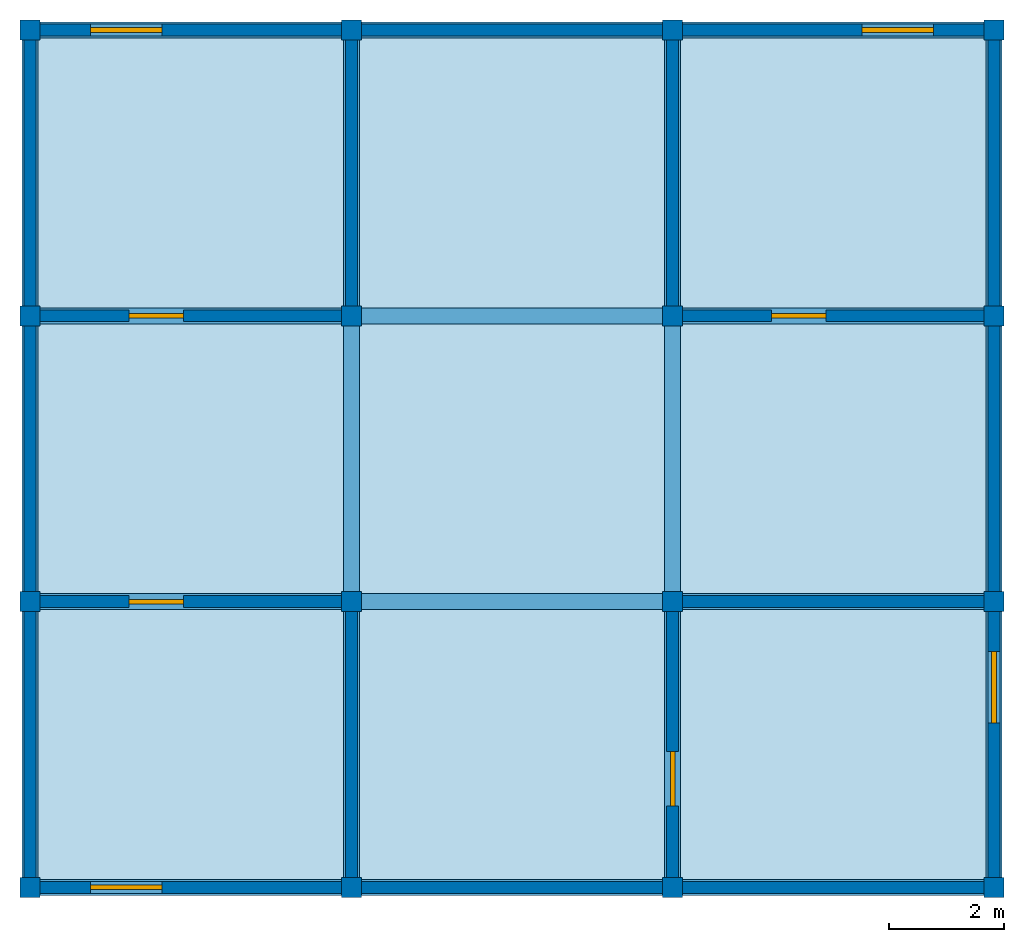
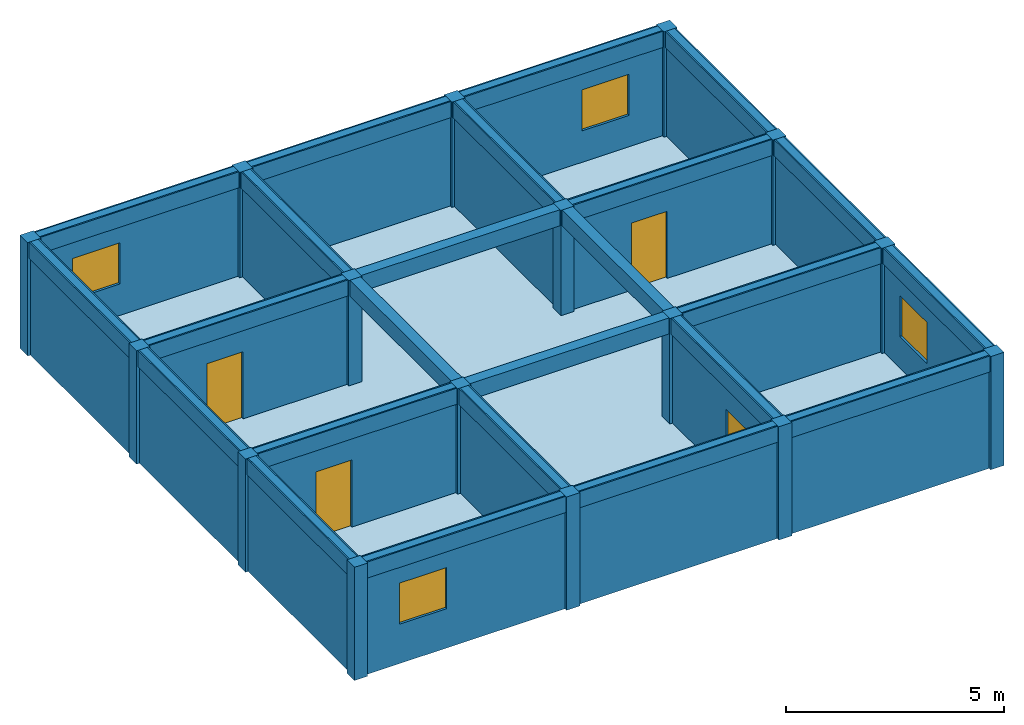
# One storey: 24 beams, 20 walls, 16 columns, 4 doors, 4 windows, 1 slab, 8 openings.
"""IFC4X3 building model written with IfcOpenShell, lengths in metres."""

from ifc_helpers import new_model, si_unit, frame, origin_with_axes, origin_2d, place, context, project, spatial, rectangle, extrude, material, element, fill, save


model = new_model("IFC4X3")

# Units and contexts
model_context = context("Model", 3, precision=1e-05, world=origin_with_axes())
ifc_project = project(units=[si_unit("LENGTHUNIT", "METRE"), si_unit("AREAUNIT", "SQUARE_METRE"), si_unit("VOLUMEUNIT", "CUBIC_METRE")], contexts=[model_context])

# Site, building, storey
site = spatial("IfcSite", under=ifc_project, Name="Puerto Montt Parcel", CompositionType="ELEMENT")
building = spatial("IfcBuilding", under=site, Name="Apex Hub", CompositionType="ELEMENT")
storey = spatial("IfcBuildingStorey", under=building, Name="Level 2", CompositionType="ELEMENT", Elevation=3.17)

# Columns
ifc_material_1 = material(Name="Timber")
column_1_placement = place(None, frame((-8.415, -7.485, 3.167), z_axis=(0.0, 0.0, 1.0), x_axis=(1.0, 0.0, 0.0)))
element("IfcColumn", 1, at=column_1_placement, inside=storey, material=ifc_material_1, Name="Column 2.1", ObjectType="Core Column", PredefinedType="COLUMN", context=model_context, shape_type="SweptSolid", body=[
    extrude(rectangle(XDim=0.35, YDim=0.35, at=origin_2d()), origin_with_axes(), (0.0, 0.0, 1.0), 3.167),
])
column_2_placement = place(None, frame((-8.415, -2.495, 3.167), z_axis=(0.0, 0.0, 1.0), x_axis=(1.0, 0.0, 0.0)))
element("IfcColumn", 2, at=column_2_placement, inside=storey, material=ifc_material_1, Name="Column 2.2", ObjectType="Structural Column", PredefinedType="COLUMN", context=model_context, shape_type="SweptSolid", body=[
    extrude(rectangle(XDim=0.35, YDim=0.35, at=origin_2d()), origin_with_axes(), (0.0, 0.0, 1.0), 3.167),
])
for number, where, z_axis, x_axis, name in (
    (3, (-8.415, 2.495, 3.167), (0.0, 0.0, 1.0), (1.0, 0.0, 0.0), "Column 2.3"),
    (4, (-8.415, 7.485, 3.167), (0.0, 0.0, 1.0), (1.0, 0.0, 0.0), "Column 2.4"),
):
    element("IfcColumn", number, at=place(None, frame(where, z_axis=z_axis, x_axis=x_axis)), inside=storey, material=ifc_material_1, Name=name, ObjectType="Core Column", PredefinedType="PILASTER", context=model_context, shape_type="SweptSolid", body=[
        extrude(rectangle(XDim=0.35, YDim=0.35, at=origin_2d()), origin_with_axes(), (0.0, 0.0, 1.0), 3.167),
    ])
column_3_placement = place(None, frame((-2.805, -7.485, 3.167), z_axis=(0.0, 0.0, 1.0), x_axis=(1.0, 0.0, 0.0)))
element("IfcColumn", 5, at=column_3_placement, inside=storey, material=ifc_material_1, Name="Column 2.5", ObjectType="Facade Column", PredefinedType="PILASTER", context=model_context, shape_type="SweptSolid", body=[
    extrude(rectangle(XDim=0.35, YDim=0.35, at=origin_2d()), origin_with_axes(), (0.0, 0.0, 1.0), 3.167),
])
column_4_placement = place(None, frame((-2.805, -2.495, 3.167), z_axis=(0.0, 0.0, 1.0), x_axis=(1.0, 0.0, 0.0)))
element("IfcColumn", 6, at=column_4_placement, inside=storey, material=ifc_material_1, Name="Column 2.6", ObjectType="Facade Column", PredefinedType="COLUMN", context=model_context, shape_type="SweptSolid", body=[
    extrude(rectangle(XDim=0.35, YDim=0.35, at=origin_2d()), origin_with_axes(), (0.0, 0.0, 1.0), 3.167),
])
column_5_placement = place(None, frame((-2.805, 2.495, 3.167), z_axis=(0.0, 0.0, 1.0), x_axis=(1.0, 0.0, 0.0)))
element("IfcColumn", 7, at=column_5_placement, inside=storey, material=ifc_material_1, Name="Column 2.7", ObjectType="Corner Column", PredefinedType="PILASTER", context=model_context, shape_type="SweptSolid", body=[
    extrude(rectangle(XDim=0.35, YDim=0.35, at=origin_2d()), origin_with_axes(), (0.0, 0.0, 1.0), 3.167),
])
column_6_placement = place(None, frame((-2.805, 7.485, 3.167), z_axis=(0.0, 0.0, 1.0), x_axis=(1.0, 0.0, 0.0)))
element("IfcColumn", 8, at=column_6_placement, inside=storey, material=ifc_material_1, Name="Column 2.8", ObjectType="Core Column", PredefinedType="USERDEFINED", context=model_context, shape_type="SweptSolid", body=[
    extrude(rectangle(XDim=0.35, YDim=0.35, at=origin_2d()), origin_with_axes(), (0.0, 0.0, 1.0), 3.167),
])
column_7_placement = place(None, frame((2.805, -7.485, 3.167), z_axis=(0.0, 0.0, 1.0), x_axis=(1.0, 0.0, 0.0)))
element("IfcColumn", 9, at=column_7_placement, inside=storey, material=ifc_material_1, Name="Column 2.9", ObjectType="Corner Column", PredefinedType="COLUMN", context=model_context, shape_type="SweptSolid", body=[
    extrude(rectangle(XDim=0.35, YDim=0.35, at=origin_2d()), origin_with_axes(), (0.0, 0.0, 1.0), 3.167),
])
column_8_placement = place(None, frame((2.805, -2.495, 3.167), z_axis=(0.0, 0.0, 1.0), x_axis=(1.0, 0.0, 0.0)))
element("IfcColumn", 10, at=column_8_placement, inside=storey, material=ifc_material_1, Name="Column 2.10", ObjectType="Corner Column", PredefinedType="USERDEFINED", context=model_context, shape_type="SweptSolid", body=[
    extrude(rectangle(XDim=0.35, YDim=0.35, at=origin_2d()), origin_with_axes(), (0.0, 0.0, 1.0), 3.167),
])
column_9_placement = place(None, frame((2.805, 2.495, 3.167), z_axis=(0.0, 0.0, 1.0), x_axis=(1.0, 0.0, 0.0)))
element("IfcColumn", 11, at=column_9_placement, inside=storey, material=ifc_material_1, Name="Column 2.11", ObjectType="Core Column", PredefinedType="PILASTER", context=model_context, shape_type="SweptSolid", body=[
    extrude(rectangle(XDim=0.35, YDim=0.35, at=origin_2d()), origin_with_axes(), (0.0, 0.0, 1.0), 3.167),
])
column_10_placement = place(None, frame((2.805, 7.485, 3.167), z_axis=(0.0, 0.0, 1.0), x_axis=(1.0, 0.0, 0.0)))
element("IfcColumn", 12, at=column_10_placement, inside=storey, material=ifc_material_1, Name="Column 2.12", ObjectType="Facade Column", PredefinedType="USERDEFINED", context=model_context, shape_type="SweptSolid", body=[
    extrude(rectangle(XDim=0.35, YDim=0.35, at=origin_2d()), origin_with_axes(), (0.0, 0.0, 1.0), 3.167),
])
column_11_placement = place(None, frame((8.415, -7.485, 3.167), z_axis=(0.0, 0.0, 1.0), x_axis=(1.0, 0.0, 0.0)))
element("IfcColumn", 13, at=column_11_placement, inside=storey, material=ifc_material_1, Name="Column 2.13", ObjectType="Core Column", PredefinedType="USERDEFINED", context=model_context, shape_type="SweptSolid", body=[
    extrude(rectangle(XDim=0.35, YDim=0.35, at=origin_2d()), origin_with_axes(), (0.0, 0.0, 1.0), 3.167),
])
column_12_placement = place(None, frame((8.415, -2.495, 3.167), z_axis=(0.0, 0.0, 1.0), x_axis=(1.0, 0.0, 0.0)))
element("IfcColumn", 14, at=column_12_placement, inside=storey, material=ifc_material_1, Name="Column 2.14", ObjectType="Facade Column", PredefinedType="USERDEFINED", context=model_context, shape_type="SweptSolid", body=[
    extrude(rectangle(XDim=0.35, YDim=0.35, at=origin_2d()), origin_with_axes(), (0.0, 0.0, 1.0), 3.167),
])
column_13_placement = place(None, frame((8.415, 2.495, 3.167), z_axis=(0.0, 0.0, 1.0), x_axis=(1.0, 0.0, 0.0)))
element("IfcColumn", 15, at=column_13_placement, inside=storey, material=ifc_material_1, Name="Column 2.15", ObjectType="Facade Column", PredefinedType="NOTDEFINED", context=model_context, shape_type="SweptSolid", body=[
    extrude(rectangle(XDim=0.35, YDim=0.35, at=origin_2d()), origin_with_axes(), (0.0, 0.0, 1.0), 3.167),
])
column_14_placement = place(None, frame((8.415, 7.485, 3.167), z_axis=(0.0, 0.0, 1.0), x_axis=(1.0, 0.0, 0.0)))
element("IfcColumn", 16, at=column_14_placement, inside=storey, material=ifc_material_1, Name="Column 2.16", ObjectType="Core Column", PredefinedType="PILASTER", context=model_context, shape_type="SweptSolid", body=[
    extrude(rectangle(XDim=0.35, YDim=0.35, at=origin_2d()), origin_with_axes(), (0.0, 0.0, 1.0), 3.167),
])

# Beams
beam_1_placement = place(None, frame((-5.61, -7.485, 5.884), z_axis=(0.0, 0.0, 1.0), x_axis=(1.0, 0.0, 0.0)))
element("IfcBeam", 17, at=beam_1_placement, inside=storey, material=ifc_material_1, Name="Beam 2.1", ObjectType="Secondary Beam", PredefinedType="BEAM", context=model_context, shape_type="SweptSolid", body=[
    extrude(rectangle(XDim=5.61, YDim=0.28, at=origin_2d()), origin_with_axes(), (0.0, 0.0, 1.0), 0.45),
])
beam_2_placement = place(None, frame((0.0, -7.485, 5.884), z_axis=(0.0, 0.0, 1.0), x_axis=(1.0, 0.0, 0.0)))
element("IfcBeam", 18, at=beam_2_placement, inside=storey, material=ifc_material_1, Name="Beam 2.2", ObjectType="Ridge Beam", PredefinedType="BEAM", context=model_context, shape_type="SweptSolid", body=[
    extrude(rectangle(XDim=5.61, YDim=0.28, at=origin_2d()), origin_with_axes(), (0.0, 0.0, 1.0), 0.45),
])
beam_3_placement = place(None, frame((5.61, -7.485, 5.884), z_axis=(0.0, 0.0, 1.0), x_axis=(1.0, 0.0, 0.0)))
element("IfcBeam", 19, at=beam_3_placement, inside=storey, material=ifc_material_1, Name="Beam 2.3", ObjectType="Primary Beam", PredefinedType="T_BEAM", context=model_context, shape_type="SweptSolid", body=[
    extrude(rectangle(XDim=5.61, YDim=0.28, at=origin_2d()), origin_with_axes(), (0.0, 0.0, 1.0), 0.45),
])
beam_4_placement = place(None, frame((-5.61, -2.495, 5.884), z_axis=(0.0, 0.0, 1.0), x_axis=(1.0, 0.0, 0.0)))
element("IfcBeam", 20, at=beam_4_placement, inside=storey, material=ifc_material_1, Name="Beam 2.4", ObjectType="Rafter Beam", PredefinedType="NOTDEFINED", context=model_context, shape_type="SweptSolid", body=[
    extrude(rectangle(XDim=5.61, YDim=0.28, at=origin_2d()), origin_with_axes(), (0.0, 0.0, 1.0), 0.45),
])
beam_5_placement = place(None, frame((0.0, -2.495, 5.884), z_axis=(0.0, 0.0, 1.0), x_axis=(1.0, 0.0, 0.0)))
element("IfcBeam", 21, at=beam_5_placement, inside=storey, material=ifc_material_1, Name="Beam 2.5", ObjectType="Primary Beam", PredefinedType="LINTEL", context=model_context, shape_type="SweptSolid", body=[
    extrude(rectangle(XDim=5.61, YDim=0.28, at=origin_2d()), origin_with_axes(), (0.0, 0.0, 1.0), 0.45),
])
beam_6_placement = place(None, frame((5.61, -2.495, 5.884), z_axis=(0.0, 0.0, 1.0), x_axis=(1.0, 0.0, 0.0)))
element("IfcBeam", 22, at=beam_6_placement, inside=storey, material=ifc_material_1, Name="Beam 2.6", ObjectType="Secondary Beam", PredefinedType="T_BEAM", context=model_context, shape_type="SweptSolid", body=[
    extrude(rectangle(XDim=5.61, YDim=0.28, at=origin_2d()), origin_with_axes(), (0.0, 0.0, 1.0), 0.45),
])
beam_7_placement = place(None, frame((-5.61, 2.495, 5.884), z_axis=(0.0, 0.0, 1.0), x_axis=(1.0, 0.0, 0.0)))
element("IfcBeam", 23, at=beam_7_placement, inside=storey, material=ifc_material_1, Name="Beam 2.7", ObjectType="Transfer Beam", PredefinedType="NOTDEFINED", context=model_context, shape_type="SweptSolid", body=[
    extrude(rectangle(XDim=5.61, YDim=0.28, at=origin_2d()), origin_with_axes(), (0.0, 0.0, 1.0), 0.45),
])
beam_8_placement = place(None, frame((0.0, 2.495, 5.884), z_axis=(0.0, 0.0, 1.0), x_axis=(1.0, 0.0, 0.0)))
element("IfcBeam", 24, at=beam_8_placement, inside=storey, material=ifc_material_1, Name="Beam 2.8", ObjectType="Primary Beam", PredefinedType="SPANDREL", context=model_context, shape_type="SweptSolid", body=[
    extrude(rectangle(XDim=5.61, YDim=0.28, at=origin_2d()), origin_with_axes(), (0.0, 0.0, 1.0), 0.45),
])
beam_9_placement = place(None, frame((5.61, 2.495, 5.884), z_axis=(0.0, 0.0, 1.0), x_axis=(1.0, 0.0, 0.0)))
element("IfcBeam", 25, at=beam_9_placement, inside=storey, material=ifc_material_1, Name="Beam 2.9", ObjectType="Rafter Beam", PredefinedType="SPANDREL", context=model_context, shape_type="SweptSolid", body=[
    extrude(rectangle(XDim=5.61, YDim=0.28, at=origin_2d()), origin_with_axes(), (0.0, 0.0, 1.0), 0.45),
])
beam_10_placement = place(None, frame((-5.61, 7.485, 5.884), z_axis=(0.0, 0.0, 1.0), x_axis=(1.0, 0.0, 0.0)))
element("IfcBeam", 26, at=beam_10_placement, inside=storey, material=ifc_material_1, Name="Beam 2.10", ObjectType="Secondary Beam", PredefinedType="HOLLOWCORE", context=model_context, shape_type="SweptSolid", body=[
    extrude(rectangle(XDim=5.61, YDim=0.28, at=origin_2d()), origin_with_axes(), (0.0, 0.0, 1.0), 0.45),
])
beam_11_placement = place(None, frame((0.0, 7.485, 5.884), z_axis=(0.0, 0.0, 1.0), x_axis=(1.0, 0.0, 0.0)))
element("IfcBeam", 27, at=beam_11_placement, inside=storey, material=ifc_material_1, Name="Beam 2.11", ObjectType="Ridge Beam", PredefinedType="LINTEL", context=model_context, shape_type="SweptSolid", body=[
    extrude(rectangle(XDim=5.61, YDim=0.28, at=origin_2d()), origin_with_axes(), (0.0, 0.0, 1.0), 0.45),
])
beam_12_placement = place(None, frame((5.61, 7.485, 5.884), z_axis=(0.0, 0.0, 1.0), x_axis=(1.0, 0.0, 0.0)))
element("IfcBeam", 28, at=beam_12_placement, inside=storey, material=ifc_material_1, Name="Beam 2.12", ObjectType="Transfer Beam", PredefinedType="JOIST", context=model_context, shape_type="SweptSolid", body=[
    extrude(rectangle(XDim=5.61, YDim=0.28, at=origin_2d()), origin_with_axes(), (0.0, 0.0, 1.0), 0.45),
])
beam_13_placement = place(None, frame((-8.415, -4.99, 5.884), z_axis=(0.0, 0.0, 1.0), x_axis=(0.0, 1.0, 0.0)))
element("IfcBeam", 29, at=beam_13_placement, inside=storey, material=ifc_material_1, Name="Beam 2.13", ObjectType="Rafter Beam", PredefinedType="BEAM", context=model_context, shape_type="SweptSolid", body=[
    extrude(rectangle(XDim=4.99, YDim=0.28, at=origin_2d()), origin_with_axes(), (0.0, 0.0, 1.0), 0.45),
])
beam_14_placement = place(None, frame((-8.415, 0.0, 5.884), z_axis=(0.0, 0.0, 1.0), x_axis=(0.0, 1.0, 0.0)))
element("IfcBeam", 30, at=beam_14_placement, inside=storey, material=ifc_material_1, Name="Beam 2.14", ObjectType="Ridge Beam", PredefinedType="NOTDEFINED", context=model_context, shape_type="SweptSolid", body=[
    extrude(rectangle(XDim=4.99, YDim=0.28, at=origin_2d()), origin_with_axes(), (0.0, 0.0, 1.0), 0.45),
])
beam_15_placement = place(None, frame((-8.415, 4.99, 5.884), z_axis=(0.0, 0.0, 1.0), x_axis=(0.0, 1.0, 0.0)))
element("IfcBeam", 31, at=beam_15_placement, inside=storey, material=ifc_material_1, Name="Beam 2.15", ObjectType="Rafter Beam", PredefinedType="JOIST", context=model_context, shape_type="SweptSolid", body=[
    extrude(rectangle(XDim=4.99, YDim=0.28, at=origin_2d()), origin_with_axes(), (0.0, 0.0, 1.0), 0.45),
])
beam_16_placement = place(None, frame((-2.805, -4.99, 5.884), z_axis=(0.0, 0.0, 1.0), x_axis=(0.0, 1.0, 0.0)))
element("IfcBeam", 32, at=beam_16_placement, inside=storey, material=ifc_material_1, Name="Beam 2.16", ObjectType="Secondary Beam", PredefinedType="USERDEFINED", context=model_context, shape_type="SweptSolid", body=[
    extrude(rectangle(XDim=4.99, YDim=0.28, at=origin_2d()), origin_with_axes(), (0.0, 0.0, 1.0), 0.45),
])
beam_17_placement = place(None, frame((-2.805, 0.0, 5.884), z_axis=(0.0, 0.0, 1.0), x_axis=(0.0, 1.0, 0.0)))
element("IfcBeam", 33, at=beam_17_placement, inside=storey, material=ifc_material_1, Name="Beam 2.17", ObjectType="Transfer Beam", PredefinedType="T_BEAM", context=model_context, shape_type="SweptSolid", body=[
    extrude(rectangle(XDim=4.99, YDim=0.28, at=origin_2d()), origin_with_axes(), (0.0, 0.0, 1.0), 0.45),
])
beam_18_placement = place(None, frame((-2.805, 4.99, 5.884), z_axis=(0.0, 0.0, 1.0), x_axis=(0.0, 1.0, 0.0)))
element("IfcBeam", 34, at=beam_18_placement, inside=storey, material=ifc_material_1, Name="Beam 2.18", ObjectType="Primary Beam", PredefinedType="BEAM", context=model_context, shape_type="SweptSolid", body=[
    extrude(rectangle(XDim=4.99, YDim=0.28, at=origin_2d()), origin_with_axes(), (0.0, 0.0, 1.0), 0.45),
])
beam_19_placement = place(None, frame((2.805, -4.99, 5.884), z_axis=(0.0, 0.0, 1.0), x_axis=(0.0, 1.0, 0.0)))
element("IfcBeam", 35, at=beam_19_placement, inside=storey, material=ifc_material_1, Name="Beam 2.19", ObjectType="Ridge Beam", PredefinedType="BEAM", context=model_context, shape_type="SweptSolid", body=[
    extrude(rectangle(XDim=4.99, YDim=0.28, at=origin_2d()), origin_with_axes(), (0.0, 0.0, 1.0), 0.45),
])
beam_20_placement = place(None, frame((2.805, 0.0, 5.884), z_axis=(0.0, 0.0, 1.0), x_axis=(0.0, 1.0, 0.0)))
element("IfcBeam", 36, at=beam_20_placement, inside=storey, material=ifc_material_1, Name="Beam 2.20", ObjectType="Ridge Beam", PredefinedType="NOTDEFINED", context=model_context, shape_type="SweptSolid", body=[
    extrude(rectangle(XDim=4.99, YDim=0.28, at=origin_2d()), origin_with_axes(), (0.0, 0.0, 1.0), 0.45),
])
beam_21_placement = place(None, frame((2.805, 4.99, 5.884), z_axis=(0.0, 0.0, 1.0), x_axis=(0.0, 1.0, 0.0)))
element("IfcBeam", 37, at=beam_21_placement, inside=storey, material=ifc_material_1, Name="Beam 2.21", ObjectType="Rafter Beam", PredefinedType="NOTDEFINED", context=model_context, shape_type="SweptSolid", body=[
    extrude(rectangle(XDim=4.99, YDim=0.28, at=origin_2d()), origin_with_axes(), (0.0, 0.0, 1.0), 0.45),
])
for number, where, z_axis, x_axis, name in (
    (38, (8.415, -4.99, 5.884), (0.0, 0.0, 1.0), (0.0, 1.0, 0.0), "Beam 2.22"),
    (39, (8.415, 0.0, 5.884), (0.0, 0.0, 1.0), (0.0, 1.0, 0.0), "Beam 2.23"),
):
    element("IfcBeam", number, at=place(None, frame(where, z_axis=z_axis, x_axis=x_axis)), inside=storey, material=ifc_material_1, Name=name, ObjectType="Transfer Beam", PredefinedType="USERDEFINED", context=model_context, shape_type="SweptSolid", body=[
        extrude(rectangle(XDim=4.99, YDim=0.28, at=origin_2d()), origin_with_axes(), (0.0, 0.0, 1.0), 0.45),
    ])
beam_22_placement = place(None, frame((8.415, 4.99, 5.884), z_axis=(0.0, 0.0, 1.0), x_axis=(0.0, 1.0, 0.0)))
element("IfcBeam", 40, at=beam_22_placement, inside=storey, material=ifc_material_1, Name="Beam 2.24", ObjectType="Primary Beam", PredefinedType="SPANDREL", context=model_context, shape_type="SweptSolid", body=[
    extrude(rectangle(XDim=4.99, YDim=0.28, at=origin_2d()), origin_with_axes(), (0.0, 0.0, 1.0), 0.45),
])

# Slab
ifc_material_2 = material(Name="Concrete")
slab_placement = place(None, frame((0.0, 0.0, 3.17), z_axis=(0.0, 0.0, 1.0), x_axis=(1.0, 0.0, 0.0)))
element("IfcSlab", 41, at=slab_placement, inside=storey, material=ifc_material_2, Name="Slab 2", ObjectType="Floor Slab", PredefinedType="FLOOR", context=model_context, shape_type="SweptSolid", body=[
    extrude(rectangle(XDim=16.83, YDim=14.97, at=origin_2d()), origin_with_axes(), (0.0, 0.0, 1.0), 0.22),
])

# Wall, opening, door
ifc_material_3 = material(Name="Brick")
wall_1_placement = place(None, frame((-5.61, -2.495, 3.167), z_axis=(0.0, 0.0, 1.0), x_axis=(1.0, 0.0, 0.0)))
wall_1 = element("IfcWall", 42, at=wall_1_placement, inside=storey, material=ifc_material_3, Name="Wall 2.1", ObjectType="Corridor Partition", PredefinedType="USERDEFINED", context=model_context, shape_type="SweptSolid", body=[
    extrude(rectangle(XDim=5.61, YDim=0.206482, at=origin_2d()), origin_with_axes(), (0.0, 0.0, 1.0), 3.167),
])
opening_1_placement = place(None, frame((-6.21, -2.495, 3.167), z_axis=(0.0, 0.0, 1.0), x_axis=(1.0, 0.0, 0.0)))
opening_1 = element("IfcOpeningElement", 43, at=opening_1_placement, cuts=wall_1, Name="Door opening 2.1", ObjectType="Door Opening", PredefinedType="OPENING", context=model_context, shape_type="SweptSolid", body=[
    extrude(rectangle(XDim=0.95, YDim=0.286482, at=origin_2d()), origin_with_axes(), (0.0, 0.0, 1.0), 2.1),
])
door_1_placement = place(None, frame((-6.21, -2.495, 3.167), z_axis=(0.0, 0.0, 1.0), x_axis=(1.0, 0.0, 0.0)))
door_1 = element("IfcDoor", 44, at=door_1_placement, inside=storey, Name="Door 2.1", ObjectType="Fire Door", OverallHeight=2.1, OverallWidth=0.95, context=model_context, shape_type="SweptSolid", body=[
    extrude(rectangle(XDim=0.95, YDim=0.08, at=origin_2d()), origin_with_axes(), (0.0, 0.0, 1.0), 2.1),
])
fill(opening_1, door_1)

# Wall
wall_2_placement = place(None, frame((-2.805, -4.99, 3.167), z_axis=(0.0, 0.0, 1.0), x_axis=(0.0, 1.0, 0.0)))
element("IfcWall", 45, at=wall_2_placement, inside=storey, material=ifc_material_2, Name="Wall 2.2", ObjectType="Corridor Partition", PredefinedType="PLUMBINGWALL", context=model_context, shape_type="SweptSolid", body=[
    extrude(rectangle(XDim=4.99, YDim=0.206482, at=origin_2d()), origin_with_axes(), (0.0, 0.0, 1.0), 3.167),
])

# Wall, opening, window
wall_3_placement = place(None, frame((-5.61, -7.485, 3.167), z_axis=(0.0, 0.0, 1.0), x_axis=(1.0, 0.0, 0.0)))
wall_3 = element("IfcWall", 46, at=wall_3_placement, inside=storey, material=ifc_material_3, Name="Wall 2.3", ObjectType="Exterior Wall", PredefinedType="MOVABLE", context=model_context, shape_type="SweptSolid", body=[
    extrude(rectangle(XDim=5.61, YDim=0.206482, at=origin_2d()), origin_with_axes(), (0.0, 0.0, 1.0), 3.167),
])
opening_2_placement = place(None, frame((-6.732, -7.485, 4.267), z_axis=(0.0, 0.0, 1.0), x_axis=(1.0, 0.0, 0.0)))
opening_2 = element("IfcOpeningElement", 47, at=opening_2_placement, cuts=wall_3, Name="Window opening 2.2", ObjectType="Window Opening", PredefinedType="OPENING", context=model_context, shape_type="SweptSolid", body=[
    extrude(rectangle(XDim=1.25, YDim=0.286482, at=origin_2d()), origin_with_axes(), (0.0, 0.0, 1.0), 1.15),
])
window_1_placement = place(None, frame((-6.732, -7.485, 4.267), z_axis=(0.0, 0.0, 1.0), x_axis=(1.0, 0.0, 0.0)))
window_1 = element("IfcWindow", 48, at=window_1_placement, inside=storey, Name="Window 2.2", ObjectType="Sliding Window", OverallHeight=1.15, OverallWidth=1.25, context=model_context, shape_type="SweptSolid", body=[
    extrude(rectangle(XDim=1.25, YDim=0.08, at=origin_2d()), origin_with_axes(), (0.0, 0.0, 1.0), 1.15),
])
fill(opening_2, window_1)

# Wall
ifc_material_4 = material(Name="Gypsum")
wall_4_placement = place(None, frame((-8.415, -4.99, 3.167), z_axis=(0.0, 0.0, 1.0), x_axis=(0.0, 1.0, 0.0)))
element("IfcWall", 49, at=wall_4_placement, inside=storey, material=ifc_material_4, Name="Wall 2.4", ObjectType="Exterior Wall", PredefinedType="SOLIDWALL", context=model_context, shape_type="SweptSolid", body=[
    extrude(rectangle(XDim=4.99, YDim=0.206482, at=origin_2d()), origin_with_axes(), (0.0, 0.0, 1.0), 3.167),
])

# Wall, opening, door
wall_5_placement = place(None, frame((2.805, -4.99, 3.167), z_axis=(0.0, 0.0, 1.0), x_axis=(0.0, 1.0, 0.0)))
wall_5 = element("IfcWall", 50, at=wall_5_placement, inside=storey, material=ifc_material_2, Name="Wall 2.5", ObjectType="Corridor Partition", PredefinedType="ELEMENTEDWALL", context=model_context, shape_type="SweptSolid", body=[
    extrude(rectangle(XDim=4.99, YDim=0.206482, at=origin_2d()), origin_with_axes(), (0.0, 0.0, 1.0), 3.167),
])
opening_3_placement = place(None, frame((2.805, -5.59, 3.167), z_axis=(0.0, 0.0, 1.0), x_axis=(0.0, 1.0, 0.0)))
opening_3 = element("IfcOpeningElement", 51, at=opening_3_placement, cuts=wall_5, Name="Door opening 2.3", ObjectType="Door Opening", PredefinedType="OPENING", context=model_context, shape_type="SweptSolid", body=[
    extrude(rectangle(XDim=0.95, YDim=0.286482, at=origin_2d()), origin_with_axes(), (0.0, 0.0, 1.0), 2.1),
])
door_2_placement = place(None, frame((2.805, -5.59, 3.167), z_axis=(0.0, 0.0, 1.0), x_axis=(0.0, 1.0, 0.0)))
door_2 = element("IfcDoor", 52, at=door_2_placement, inside=storey, Name="Door 2.3", ObjectType="Entry Door", OverallHeight=2.1, OverallWidth=0.95, context=model_context, shape_type="SweptSolid", body=[
    extrude(rectangle(XDim=0.95, YDim=0.08, at=origin_2d()), origin_with_axes(), (0.0, 0.0, 1.0), 2.1),
])
fill(opening_3, door_2)

# Walls
ifc_material_5 = material(Name="CLT")
wall_6_placement = place(None, frame((0.0, -7.485, 3.167), z_axis=(0.0, 0.0, 1.0), x_axis=(1.0, 0.0, 0.0)))
element("IfcWall", 53, at=wall_6_placement, inside=storey, material=ifc_material_5, Name="Wall 2.6", ObjectType="Exterior Wall", PredefinedType="PARAPET", context=model_context, shape_type="SweptSolid", body=[
    extrude(rectangle(XDim=5.61, YDim=0.206482, at=origin_2d()), origin_with_axes(), (0.0, 0.0, 1.0), 3.167),
])
wall_7_placement = place(None, frame((5.61, -2.495, 3.167), z_axis=(0.0, 0.0, 1.0), x_axis=(1.0, 0.0, 0.0)))
element("IfcWall", 54, at=wall_7_placement, inside=storey, material=ifc_material_2, Name="Wall 2.7", ObjectType="Corridor Partition", PredefinedType="NOTDEFINED", context=model_context, shape_type="SweptSolid", body=[
    extrude(rectangle(XDim=5.61, YDim=0.206482, at=origin_2d()), origin_with_axes(), (0.0, 0.0, 1.0), 3.167),
])

# Wall, opening, window
wall_8_placement = place(None, frame((8.415, -4.99, 3.167), z_axis=(0.0, 0.0, 1.0), x_axis=(0.0, 1.0, 0.0)))
wall_8 = element("IfcWall", 55, at=wall_8_placement, inside=storey, material=ifc_material_2, Name="Wall 2.8", ObjectType="Exterior Wall", PredefinedType="PLUMBINGWALL", context=model_context, shape_type="SweptSolid", body=[
    extrude(rectangle(XDim=4.99, YDim=0.206482, at=origin_2d()), origin_with_axes(), (0.0, 0.0, 1.0), 3.167),
])
opening_4_placement = place(None, frame((8.415, -3.992, 4.267), z_axis=(0.0, 0.0, 1.0), x_axis=(0.0, 1.0, 0.0)))
opening_4 = element("IfcOpeningElement", 56, at=opening_4_placement, cuts=wall_8, Name="Window opening 2.4", ObjectType="Window Opening", PredefinedType="OPENING", context=model_context, shape_type="SweptSolid", body=[
    extrude(rectangle(XDim=1.25, YDim=0.286482, at=origin_2d()), origin_with_axes(), (0.0, 0.0, 1.0), 1.15),
])
window_2_placement = place(None, frame((8.415, -3.992, 4.267), z_axis=(0.0, 0.0, 1.0), x_axis=(0.0, 1.0, 0.0)))
window_2 = element("IfcWindow", 57, at=window_2_placement, inside=storey, Name="Window 2.4", ObjectType="Louvre Window", OverallHeight=1.15, OverallWidth=1.25, context=model_context, shape_type="SweptSolid", body=[
    extrude(rectangle(XDim=1.25, YDim=0.08, at=origin_2d()), origin_with_axes(), (0.0, 0.0, 1.0), 1.15),
])
fill(opening_4, window_2)

# Wall
wall_9_placement = place(None, frame((5.61, -7.485, 3.167), z_axis=(0.0, 0.0, 1.0), x_axis=(1.0, 0.0, 0.0)))
element("IfcWall", 58, at=wall_9_placement, inside=storey, material=ifc_material_3, Name="Wall 2.9", ObjectType="Exterior Wall", PredefinedType="MOVABLE", context=model_context, shape_type="SweptSolid", body=[
    extrude(rectangle(XDim=5.61, YDim=0.206482, at=origin_2d()), origin_with_axes(), (0.0, 0.0, 1.0), 3.167),
])

# Wall, opening, door
wall_10_placement = place(None, frame((-5.61, 2.495, 3.167), z_axis=(0.0, 0.0, 1.0), x_axis=(1.0, 0.0, 0.0)))
wall_10 = element("IfcWall", 59, at=wall_10_placement, inside=storey, material=ifc_material_5, Name="Wall 2.10", ObjectType="Corridor Partition", PredefinedType="USERDEFINED", context=model_context, shape_type="SweptSolid", body=[
    extrude(rectangle(XDim=5.61, YDim=0.206482, at=origin_2d()), origin_with_axes(), (0.0, 0.0, 1.0), 3.167),
])
opening_5_placement = place(None, frame((-6.21, 2.495, 3.167), z_axis=(0.0, 0.0, 1.0), x_axis=(1.0, 0.0, 0.0)))
opening_5 = element("IfcOpeningElement", 60, at=opening_5_placement, cuts=wall_10, Name="Door opening 2.5", ObjectType="Door Opening", PredefinedType="OPENING", context=model_context, shape_type="SweptSolid", body=[
    extrude(rectangle(XDim=0.95, YDim=0.286482, at=origin_2d()), origin_with_axes(), (0.0, 0.0, 1.0), 2.1),
])
door_3_placement = place(None, frame((-6.21, 2.495, 3.167), z_axis=(0.0, 0.0, 1.0), x_axis=(1.0, 0.0, 0.0)))
door_3 = element("IfcDoor", 61, at=door_3_placement, inside=storey, Name="Door 2.5", ObjectType="Interior Door", OverallHeight=2.1, OverallWidth=0.95, context=model_context, shape_type="SweptSolid", body=[
    extrude(rectangle(XDim=0.95, YDim=0.08, at=origin_2d()), origin_with_axes(), (0.0, 0.0, 1.0), 2.1),
])
fill(opening_5, door_3)

# Wall
wall_11_placement = place(None, frame((-8.415, 0.0, 3.167), z_axis=(0.0, 0.0, 1.0), x_axis=(0.0, 1.0, 0.0)))
element("IfcWall", 62, at=wall_11_placement, inside=storey, material=ifc_material_3, Name="Wall 2.11", ObjectType="Exterior Wall", PredefinedType="PARAPET", context=model_context, shape_type="SweptSolid", body=[
    extrude(rectangle(XDim=4.99, YDim=0.206482, at=origin_2d()), origin_with_axes(), (0.0, 0.0, 1.0), 3.167),
])

# Wall, opening, door
wall_12_placement = place(None, frame((5.61, 2.495, 3.167), z_axis=(0.0, 0.0, 1.0), x_axis=(1.0, 0.0, 0.0)))
wall_12 = element("IfcWall", 63, at=wall_12_placement, inside=storey, material=ifc_material_2, Name="Wall 2.12", ObjectType="Corridor Partition", PredefinedType="NOTDEFINED", context=model_context, shape_type="SweptSolid", body=[
    extrude(rectangle(XDim=5.61, YDim=0.206482, at=origin_2d()), origin_with_axes(), (0.0, 0.0, 1.0), 3.167),
])
opening_6_placement = place(None, frame((5.01, 2.495, 3.167), z_axis=(0.0, 0.0, 1.0), x_axis=(1.0, 0.0, 0.0)))
opening_6 = element("IfcOpeningElement", 64, at=opening_6_placement, cuts=wall_12, Name="Door opening 2.7", ObjectType="Door Opening", PredefinedType="OPENING", context=model_context, shape_type="SweptSolid", body=[
    extrude(rectangle(XDim=0.95, YDim=0.286482, at=origin_2d()), origin_with_axes(), (0.0, 0.0, 1.0), 2.1),
])
door_4_placement = place(None, frame((5.01, 2.495, 3.167), z_axis=(0.0, 0.0, 1.0), x_axis=(1.0, 0.0, 0.0)))
door_4 = element("IfcDoor", 65, at=door_4_placement, inside=storey, Name="Door 2.7", ObjectType="Interior Door", OverallHeight=2.1, OverallWidth=0.95, context=model_context, shape_type="SweptSolid", body=[
    extrude(rectangle(XDim=0.95, YDim=0.08, at=origin_2d()), origin_with_axes(), (0.0, 0.0, 1.0), 2.1),
])
fill(opening_6, door_4)

# Wall
wall_13_placement = place(None, frame((8.415, 0.0, 3.167), z_axis=(0.0, 0.0, 1.0), x_axis=(0.0, 1.0, 0.0)))
element("IfcWall", 66, at=wall_13_placement, inside=storey, material=ifc_material_3, Name="Wall 2.13", ObjectType="Exterior Wall", PredefinedType="PARTITIONING", context=model_context, shape_type="SweptSolid", body=[
    extrude(rectangle(XDim=4.99, YDim=0.206482, at=origin_2d()), origin_with_axes(), (0.0, 0.0, 1.0), 3.167),
])

# Wall, opening, window
wall_14_placement = place(None, frame((-5.61, 7.485, 3.167), z_axis=(0.0, 0.0, 1.0), x_axis=(1.0, 0.0, 0.0)))
wall_14 = element("IfcWall", 67, at=wall_14_placement, inside=storey, material=ifc_material_4, Name="Wall 2.14", ObjectType="Exterior Wall", PredefinedType="PARAPET", context=model_context, shape_type="SweptSolid", body=[
    extrude(rectangle(XDim=5.61, YDim=0.206482, at=origin_2d()), origin_with_axes(), (0.0, 0.0, 1.0), 3.167),
])
opening_7_placement = place(None, frame((-6.732, 7.485, 4.267), z_axis=(0.0, 0.0, 1.0), x_axis=(1.0, 0.0, 0.0)))
opening_7 = element("IfcOpeningElement", 68, at=opening_7_placement, cuts=wall_14, Name="Window opening 2.6", ObjectType="Window Opening", PredefinedType="OPENING", context=model_context, shape_type="SweptSolid", body=[
    extrude(rectangle(XDim=1.25, YDim=0.286482, at=origin_2d()), origin_with_axes(), (0.0, 0.0, 1.0), 1.15),
])
window_3_placement = place(None, frame((-6.732, 7.485, 4.267), z_axis=(0.0, 0.0, 1.0), x_axis=(1.0, 0.0, 0.0)))
window_3 = element("IfcWindow", 69, at=window_3_placement, inside=storey, Name="Window 2.6", ObjectType="Operable Window", OverallHeight=1.15, OverallWidth=1.25, context=model_context, shape_type="SweptSolid", body=[
    extrude(rectangle(XDim=1.25, YDim=0.08, at=origin_2d()), origin_with_axes(), (0.0, 0.0, 1.0), 1.15),
])
fill(opening_7, window_3)

# Walls
wall_15_placement = place(None, frame((-2.805, 4.99, 3.167), z_axis=(0.0, 0.0, 1.0), x_axis=(0.0, 1.0, 0.0)))
element("IfcWall", 70, at=wall_15_placement, inside=storey, material=ifc_material_4, Name="Wall 2.15", ObjectType="Corridor Partition", PredefinedType="NOTDEFINED", context=model_context, shape_type="SweptSolid", body=[
    extrude(rectangle(XDim=4.99, YDim=0.206482, at=origin_2d()), origin_with_axes(), (0.0, 0.0, 1.0), 3.167),
])
wall_16_placement = place(None, frame((-8.415, 4.99, 3.167), z_axis=(0.0, 0.0, 1.0), x_axis=(0.0, 1.0, 0.0)))
element("IfcWall", 71, at=wall_16_placement, inside=storey, material=ifc_material_3, Name="Wall 2.16", ObjectType="Exterior Wall", PredefinedType="PARTITIONING", context=model_context, shape_type="SweptSolid", body=[
    extrude(rectangle(XDim=4.99, YDim=0.206482, at=origin_2d()), origin_with_axes(), (0.0, 0.0, 1.0), 3.167),
])
wall_17_placement = place(None, frame((0.0, 7.485, 3.167), z_axis=(0.0, 0.0, 1.0), x_axis=(1.0, 0.0, 0.0)))
element("IfcWall", 72, at=wall_17_placement, inside=storey, material=ifc_material_3, Name="Wall 2.17", ObjectType="Exterior Wall", PredefinedType="NOTDEFINED", context=model_context, shape_type="SweptSolid", body=[
    extrude(rectangle(XDim=5.61, YDim=0.206482, at=origin_2d()), origin_with_axes(), (0.0, 0.0, 1.0), 3.167),
])
wall_18_placement = place(None, frame((2.805, 4.99, 3.167), z_axis=(0.0, 0.0, 1.0), x_axis=(0.0, 1.0, 0.0)))
element("IfcWall", 73, at=wall_18_placement, inside=storey, material=ifc_material_2, Name="Wall 2.18", ObjectType="Corridor Partition", PredefinedType="PARAPET", context=model_context, shape_type="SweptSolid", body=[
    extrude(rectangle(XDim=4.99, YDim=0.206482, at=origin_2d()), origin_with_axes(), (0.0, 0.0, 1.0), 3.167),
])

# Wall, opening, window
wall_19_placement = place(None, frame((5.61, 7.485, 3.167), z_axis=(0.0, 0.0, 1.0), x_axis=(1.0, 0.0, 0.0)))
wall_19 = element("IfcWall", 74, at=wall_19_placement, inside=storey, material=ifc_material_3, Name="Wall 2.19", ObjectType="Exterior Wall", PredefinedType="USERDEFINED", context=model_context, shape_type="SweptSolid", body=[
    extrude(rectangle(XDim=5.61, YDim=0.206482, at=origin_2d()), origin_with_axes(), (0.0, 0.0, 1.0), 3.167),
])
opening_8_placement = place(None, frame((6.732, 7.485, 4.267), z_axis=(0.0, 0.0, 1.0), x_axis=(1.0, 0.0, 0.0)))
opening_8 = element("IfcOpeningElement", 75, at=opening_8_placement, cuts=wall_19, Name="Window opening 2.8", ObjectType="Window Opening", PredefinedType="OPENING", context=model_context, shape_type="SweptSolid", body=[
    extrude(rectangle(XDim=1.25, YDim=0.286482, at=origin_2d()), origin_with_axes(), (0.0, 0.0, 1.0), 1.15),
])
window_4_placement = place(None, frame((6.732, 7.485, 4.267), z_axis=(0.0, 0.0, 1.0), x_axis=(1.0, 0.0, 0.0)))
window_4 = element("IfcWindow", 76, at=window_4_placement, inside=storey, Name="Window 2.8", ObjectType="Operable Window", OverallHeight=1.15, OverallWidth=1.25, context=model_context, shape_type="SweptSolid", body=[
    extrude(rectangle(XDim=1.25, YDim=0.08, at=origin_2d()), origin_with_axes(), (0.0, 0.0, 1.0), 1.15),
])
fill(opening_8, window_4)

# Wall
wall_20_placement = place(None, frame((8.415, 4.99, 3.167), z_axis=(0.0, 0.0, 1.0), x_axis=(0.0, 1.0, 0.0)))
element("IfcWall", 77, at=wall_20_placement, inside=storey, material=ifc_material_3, Name="Wall 2.20", ObjectType="Exterior Wall", PredefinedType="PLUMBINGWALL", context=model_context, shape_type="SweptSolid", body=[
    extrude(rectangle(XDim=4.99, YDim=0.206482, at=origin_2d()), origin_with_axes(), (0.0, 0.0, 1.0), 3.167),
])

save(model, "model.ifc")
